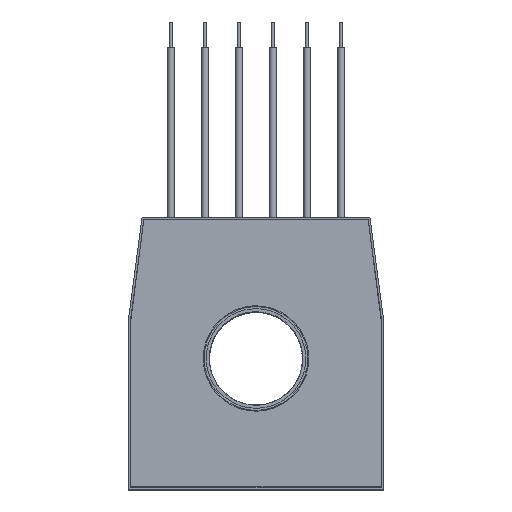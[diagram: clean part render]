
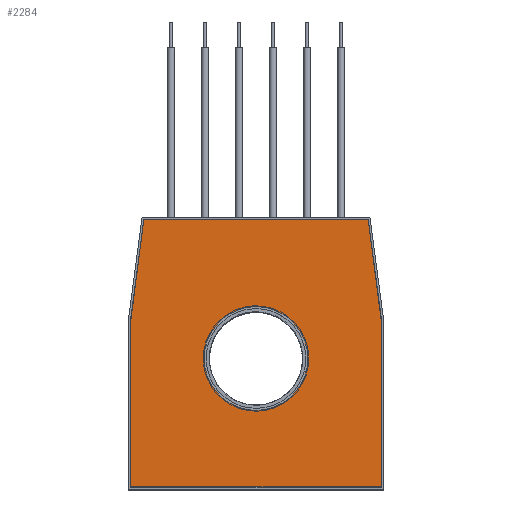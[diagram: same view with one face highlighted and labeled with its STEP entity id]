
A CAD part, top view. The second image highlights one B-rep face of the part: STEP entity #2284.
In plain terms, the highlighted planar face has unit normal (0, 0, 1).
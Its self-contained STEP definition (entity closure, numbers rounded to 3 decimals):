
#2284=ADVANCED_FACE('',(#3728,#3730),#3732,.T.);
#3728=FACE_BOUND('',#3729,.T.);
#3729=EDGE_LOOP('',(#4578,#4579,#4580,#4581,#4582,#4583));
#3730=FACE_BOUND('',#3731,.T.);
#3731=EDGE_LOOP('',(#4584));
#3732=PLANE('',#3733);
#3733=AXIS2_PLACEMENT_3D('',#3734,#3735,#3736);
#3734=CARTESIAN_POINT('',(0.,0.,5.));
#3735=DIRECTION('',(0.,0.,1.));
#3736=DIRECTION('',(1.,0.,0.));
#4578=ORIENTED_EDGE('',*,*,#4997,.T.);
#4579=ORIENTED_EDGE('',*,*,#4998,.T.);
#4580=ORIENTED_EDGE('',*,*,#4999,.T.);
#4581=ORIENTED_EDGE('',*,*,#5000,.T.);
#4582=ORIENTED_EDGE('',*,*,#5001,.T.);
#4583=ORIENTED_EDGE('',*,*,#5002,.T.);
#4584=ORIENTED_EDGE('',*,*,#5003,.T.);
#4997=EDGE_CURVE('',#5667,#5668,#5669,.T.);
#4998=EDGE_CURVE('',#5668,#5670,#5671,.T.);
#4999=EDGE_CURVE('',#5670,#5672,#5673,.T.);
#5000=EDGE_CURVE('',#5672,#5674,#5675,.T.);
#5001=EDGE_CURVE('',#5674,#5676,#5677,.T.);
#5002=EDGE_CURVE('',#5676,#5667,#5678,.T.);
#5003=EDGE_CURVE('',#5679,#5679,#5680,.F.);
#5667=VERTEX_POINT('',#7215);
#5668=VERTEX_POINT('',#7216);
#5669=LINE('',#7217,#7218);
#5670=VERTEX_POINT('',#7220);
#5671=LINE('',#7221,#7222);
#5672=VERTEX_POINT('',#7224);
#5673=LINE('',#7225,#7226);
#5674=VERTEX_POINT('',#7228);
#5675=LINE('',#7229,#7230);
#5676=VERTEX_POINT('',#7232);
#5677=LINE('',#7233,#7234);
#5678=LINE('',#7236,#7237);
#5679=VERTEX_POINT('',#7239);
#5680=CIRCLE('',#7240,30.5);
#7215=CARTESIAN_POINT('',(-73.5,19.815,5.));
#7216=CARTESIAN_POINT('',(-73.5,-78.5,5.));
#7217=CARTESIAN_POINT('',(-73.5,19.815,5.));
#7218=VECTOR('',#7219,1.);
#7219=DIRECTION('',(0.,-1.,0.));
#7220=CARTESIAN_POINT('',(73.5,-78.5,5.));
#7221=CARTESIAN_POINT('',(-73.5,-78.5,5.));
#7222=VECTOR('',#7223,1.);
#7223=DIRECTION('',(1.,0.,0.));
#7224=CARTESIAN_POINT('',(73.5,19.815,5.));
#7225=CARTESIAN_POINT('',(73.5,-78.5,5.));
#7226=VECTOR('',#7227,1.);
#7227=DIRECTION('',(0.,1.,0.));
#7228=CARTESIAN_POINT('',(66.,78.5,5.));
#7229=CARTESIAN_POINT('',(73.5,19.815,5.));
#7230=VECTOR('',#7231,1.);
#7231=DIRECTION('',(-0.127,0.992,0.));
#7232=CARTESIAN_POINT('',(-66.,78.5,5.));
#7233=CARTESIAN_POINT('',(66.,78.5,5.));
#7234=VECTOR('',#7235,1.);
#7235=DIRECTION('',(-1.,0.,0.));
#7236=CARTESIAN_POINT('',(-66.,78.5,5.));
#7237=VECTOR('',#7238,1.);
#7238=DIRECTION('',(-0.127,-0.992,0.));
#7239=CARTESIAN_POINT('',(30.5,-3.,5.));
#7240=AXIS2_PLACEMENT_3D('',#7241,#7242,#7243);
#7241=CARTESIAN_POINT('',(0.,-3.,5.));
#7242=DIRECTION('',(0.,0.,1.));
#7243=DIRECTION('',(1.,0.,0.));
